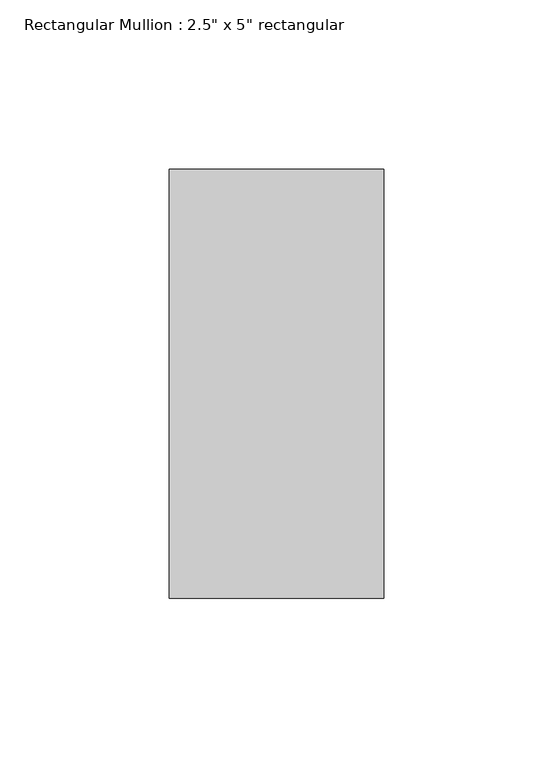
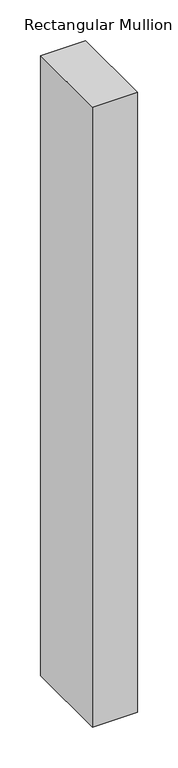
"""IFC4 building model written with IfcOpenShell, lengths in millimetres: member geometry."""

from ifc_helpers import new_model, si_unit, frame, origin, place, context, project, spatial, polyline, outline, extrude, source, transform, mapped, element, save


def member_f689fba6(model_context):
    return source(origin(), model_context, "Body", "SweptSolid", [
        extrude(outline(polyline([(0.0, 63.5), (0.0, -63.5), (-63.5, -63.5), (-63.5, 63.5), (0.0, 63.5)])), frame((0.0, 0.0, -927.1), z_axis=(0.0, 0.0, 1.0), x_axis=(1.0, 0.0, 0.0)), (0.0, 0.0, 1.0), 927.1),
    ])


if __name__ == "__main__":
    model = new_model("IFC4")
    model_context = context("Model", 3, world=origin())
    ifc_project = project(units=[si_unit("LENGTHUNIT", "METRE", prefix="MILLI")], contexts=[model_context])
    site = spatial("IfcSite", under=ifc_project)
    building = spatial("IfcBuilding", under=site)
    placement = place(None, origin())
    member_shape = member_f689fba6(model_context)
    element("IfcMember", 1, ObjectType="Rectangular Mullion : 2.5\" x 5\" rectangular", at=placement, inside=building, context=model_context, shape_type="MappedRepresentation", body=[
        mapped(member_shape, transform((0.0, 0.0, 0.0), x_axis=(1.0, 0.0, 0.0), y_axis=(0.0, 1.0, 0.0), z_axis=(0.0, 0.0, 1.0))),
    ])
    save(model, "model.ifc")
